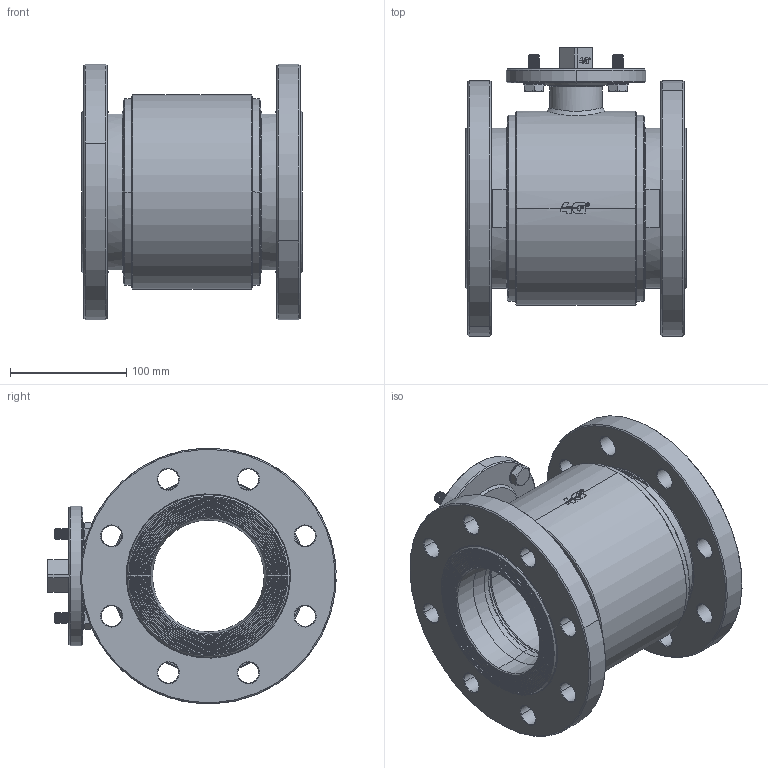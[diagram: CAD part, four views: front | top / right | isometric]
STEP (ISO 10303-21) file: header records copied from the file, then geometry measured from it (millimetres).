
FILE_DESCRIPTION((''),'2;1');
FILE_NAME('1330506541F_SW0001','2026-10-14T16:20:29',('tecnico2'),('CDM Tecnoconsulting'),'CREO PARAMETRIC BY PTC INC, 2024063','CREO PARAMETRIC BY PTC INC, 2024063','');
FILE_SCHEMA(('CONFIG_CONTROL_DESIGN','SHAPE_APPEARANCE_LAYERS_GROUPS'));
Length unit declared in the file: millimetre
Products named in the file (1): 1330506541F_SW0001
Bounding box: 190 x 247.9 x 219.79 mm (x, y, z)
Volume: 3156914.3 mm3; surface area: 557057.4 mm2
Topology: 1 solids, 1 shells, 1767 faces, 4730 edges, 3035 vertices
Faces by surface type: plane 675, cylinder 491, cone 301, extrusion 111, bspline 103, torus 74, sphere 12
Entity records: 117096 total; most frequent: CARTESIAN_POINT 60100, ORIENTED_EDGE 9444, DIRECTION 7536, PRESENTATION_STYLE_ASSIGNMENT 4861, STYLED_ITEM 4723, CURVE_STYLE 4722, EDGE_CURVE 4722, VERTEX_POINT 3035
